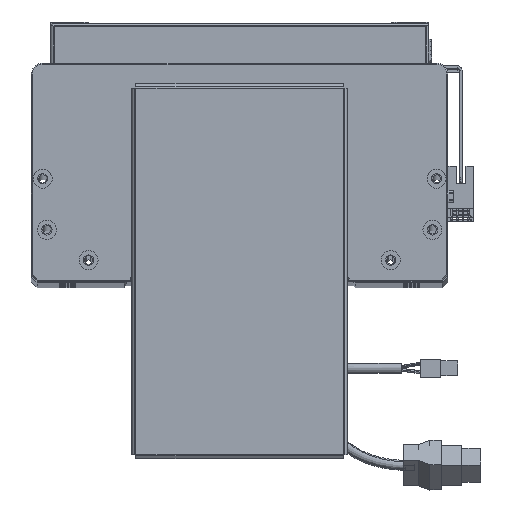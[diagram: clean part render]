
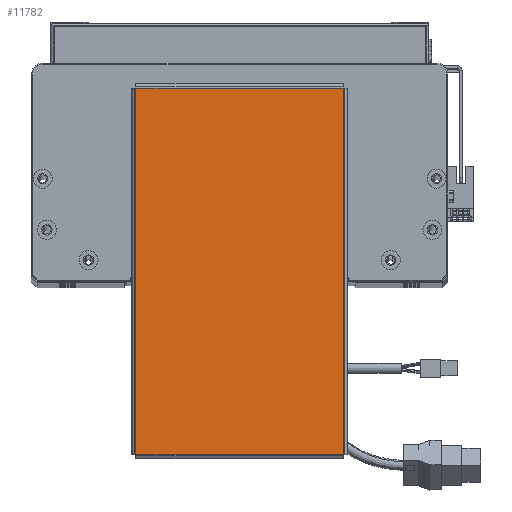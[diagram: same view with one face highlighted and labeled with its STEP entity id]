
A CAD part, top view. The second image highlights one B-rep face of the part: STEP entity #11782.
In plain terms, the highlighted planar face has unit normal (0, 0, 1).
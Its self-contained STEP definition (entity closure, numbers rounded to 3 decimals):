
#312 = LINE ( 'NONE', #34358, #10270 ) ;
#2509 = LINE ( 'NONE', #19827, #54240 ) ;
#2728 = CARTESIAN_POINT ( 'NONE',  ( 0., 0., 0. ) ) ;
#3295 = ORIENTED_EDGE ( 'NONE', *, *, #9820, .T. ) ;
#6623 = DIRECTION ( 'NONE',  ( 1., 0., 0. ) ) ;
#9820 = EDGE_CURVE ( 'NONE', #12458, #40779, #50967, .T. ) ;
#10270 = VECTOR ( 'NONE', #49554, 1000. ) ;
#11782 = ADVANCED_FACE ( 'NONE', ( #28898 ), #55656, .T. ) ;
#12458 = VERTEX_POINT ( 'NONE', #21839 ) ;
#16653 = VECTOR ( 'NONE', #6623, 1000. ) ;
#19827 = CARTESIAN_POINT ( 'NONE',  ( -96.763, 54.793, 0. ) ) ;
#21839 = CARTESIAN_POINT ( 'NONE',  ( -96.763, -54.763, 0. ) ) ;
#22866 = ORIENTED_EDGE ( 'NONE', *, *, #35990, .T. ) ;
#23079 = VERTEX_POINT ( 'NONE', #32592 ) ;
#27087 = VECTOR ( 'NONE', #53450, 1000. ) ;
#28898 = FACE_OUTER_BOUND ( 'NONE', #54269, .T. ) ;
#29774 = CARTESIAN_POINT ( 'NONE',  ( 96.763, -54.763, 0. ) ) ;
#32114 = LINE ( 'NONE', #47784, #27087 ) ;
#32592 = CARTESIAN_POINT ( 'NONE',  ( 96.763, 54.763, 0. ) ) ;
#33883 = CARTESIAN_POINT ( 'NONE',  ( -96.793, -54.763, 0. ) ) ;
#34358 = CARTESIAN_POINT ( 'NONE',  ( 96.763, -54.793, 0. ) ) ;
#35313 = ORIENTED_EDGE ( 'NONE', *, *, #36822, .T. ) ;
#35990 = EDGE_CURVE ( 'NONE', #23079, #41015, #32114, .T. ) ;
#36822 = EDGE_CURVE ( 'NONE', #40779, #23079, #312, .T. ) ;
#39999 = DIRECTION ( 'NONE',  ( 0., 0., 1. ) ) ;
#40455 = DIRECTION ( 'NONE',  ( 1., 0., 0. ) ) ;
#40779 = VERTEX_POINT ( 'NONE', #29774 ) ;
#41015 = VERTEX_POINT ( 'NONE', #52890 ) ;
#47784 = CARTESIAN_POINT ( 'NONE',  ( 96.793, 54.763, 0. ) ) ;
#48822 = ORIENTED_EDGE ( 'NONE', *, *, #49765, .T. ) ;
#49554 = DIRECTION ( 'NONE',  ( 0., 1., 0. ) ) ;
#49765 = EDGE_CURVE ( 'NONE', #41015, #12458, #2509, .T. ) ;
#50967 = LINE ( 'NONE', #33883, #16653 ) ;
#52890 = CARTESIAN_POINT ( 'NONE',  ( -96.763, 54.763, 0. ) ) ;
#53450 = DIRECTION ( 'NONE',  ( -1., 0., 0. ) ) ;
#54240 = VECTOR ( 'NONE', #62791, 1000. ) ;
#54269 = EDGE_LOOP ( 'NONE', ( #3295, #35313, #22866, #48822 ) ) ;
#55656 = PLANE ( 'NONE',  #59707 ) ;
#59707 = AXIS2_PLACEMENT_3D ( 'NONE', #2728, #39999, #40455 ) ;
#62791 = DIRECTION ( 'NONE',  ( 0., -1., 0. ) ) ;
